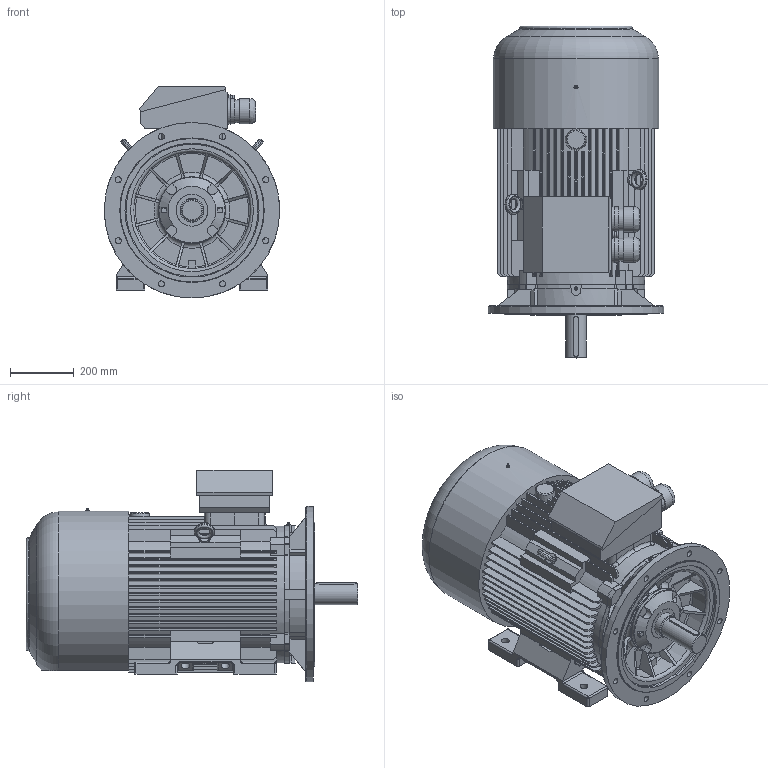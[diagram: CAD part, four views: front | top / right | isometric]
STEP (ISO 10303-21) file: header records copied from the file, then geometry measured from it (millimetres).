
FILE_DESCRIPTION( ( 'Unknown' ), '1' );
FILE_NAME( 'P:/3D_Bry³y silników skatalogowane/SIE/2SIE250/STEP/2SIEL250_M4_6 silnik.stp', 'Unknown', ( 'Unknown' ), ( 'Unknown' ), 'XStep 1.0', 'Unknown', ' ' );
FILE_SCHEMA( ( 'CONFIG_CONTROL_DESIGN' ) );
Length unit declared in the file: millimetre
Products named in the file (3): 1; 2; 3
Bounding box: 550 x 1039.99 x 664.3 mm (x, y, z)
Volume: 163510708.4 mm3; surface area: 4004451 mm2
Topology: 3 solids, 6 shells, 1224 faces, 3253 edges, 2030 vertices
Faces by surface type: plane 679, cylinder 328, torus 86, bspline 72, sphere 48, cone 11
Full cylindrical faces by diameter (mm): 1.6 x2, 5 x6, 11.083 x1, 17.5 x4, 19 x9, 21 x1, 23 x1, 24 x4, 26 x4, 27 x1, 35 x4, 40 x2, 65 x1, 71.32 x2, 74.5 x1, 78.781 x2, 80.024 x2, 81.268 x2, 100 x1, 208 x1, 210 x1, 450 x1, 550 x1
Entity records: 48787 total; most frequent: CARTESIAN_POINT 19119, ORIENTED_EDGE 6156, DIRECTION 6100, EDGE_CURVE 3078, AXIS2_PLACEMENT_3D 2130, VERTEX_POINT 1988, LINE 1840, VECTOR 1840
